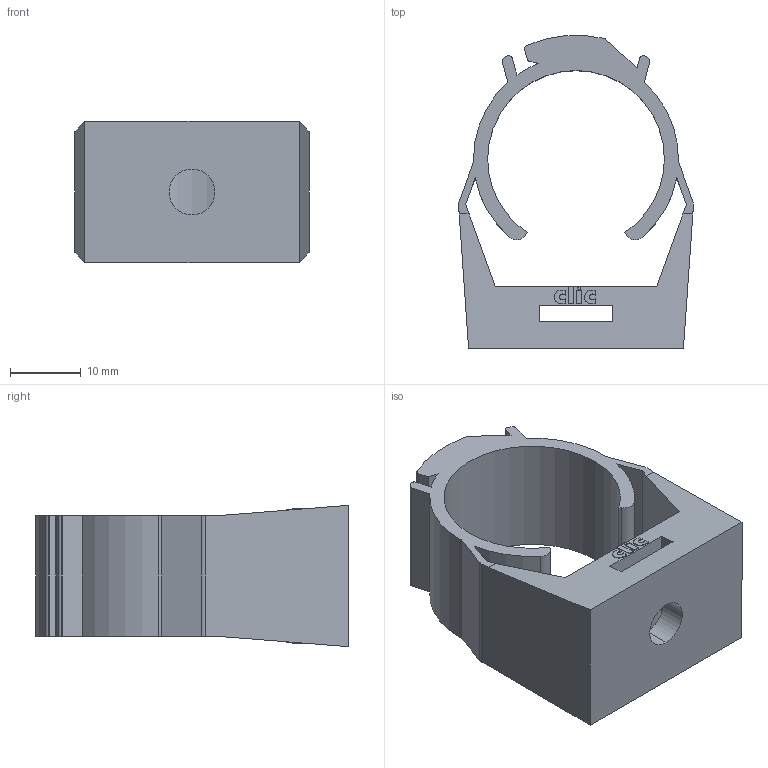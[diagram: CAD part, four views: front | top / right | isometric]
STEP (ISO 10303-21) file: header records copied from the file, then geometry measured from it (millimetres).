
FILE_DESCRIPTION (( 'STEP AP214' ), '1' );
FILE_NAME ('CLIC25.STEP', '2021-10-11T09:43:28', ( '' ), ( '' ), 'SwSTEP 2.0', 'SolidWorks 2021', '' );
FILE_SCHEMA (( 'AUTOMOTIVE_DESIGN' ));
Length unit declared in the file: millimetre
Products named in the file (1): CLIC25
Bounding box: 33.23 x 44.26 x 20 mm (x, y, z)
Volume: 9101 mm3; surface area: 6704.4 mm2
Topology: 1 solids, 1 shells, 118 faces, 324 edges, 216 vertices
Faces by surface type: plane 61, cylinder 29, bspline 28
Entity records: 3860 total; most frequent: CARTESIAN_POINT 1023, ORIENTED_EDGE 648, DIRECTION 508, EDGE_CURVE 324, VERTEX_POINT 216, LINE 210, VECTOR 210, AXIS2_PLACEMENT_3D 149
